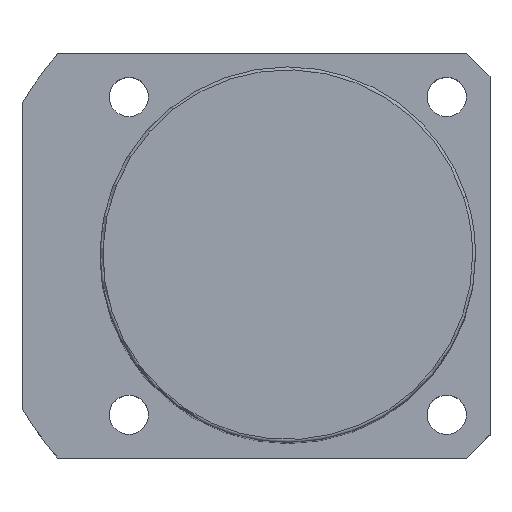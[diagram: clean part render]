
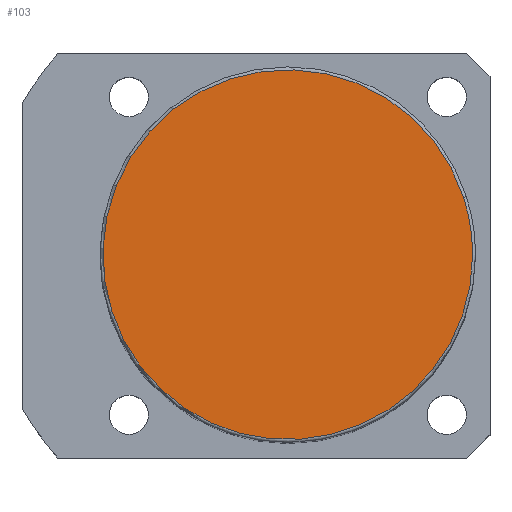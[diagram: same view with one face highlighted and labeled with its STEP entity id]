
A CAD part, top view. The second image highlights one B-rep face of the part: STEP entity #103.
In plain terms, the highlighted planar face has unit normal (0, 0, 1).
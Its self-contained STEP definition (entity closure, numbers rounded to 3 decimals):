
#16=CARTESIAN_POINT('',(-30.434,-9.889,131.0));
#17=VERTEX_POINT('',#16);
#54=CARTESIAN_POINT('',(30.434,9.889,131.0));
#55=VERTEX_POINT('',#54);
#63=CARTESIAN_POINT('',(32.0,0.0,131.0));
#64=VERTEX_POINT('',#63);
#65=CARTESIAN_POINT('',(0.0,0.0,131.0));
#66=DIRECTION('',(0.0,0.0,1.0));
#67=DIRECTION('',(1.0,0.0,0.0));
#68=AXIS2_PLACEMENT_3D('',#65,#66,#67);
#69=CIRCLE('',#68,32.0);
#70=EDGE_CURVE('no 898',#64,#55,#69,.T.);
#72=CARTESIAN_POINT('',(0.0,0.0,131.0));
#73=DIRECTION('',(0.0,0.0,1.0));
#74=DIRECTION('',(1.0,0.0,0.0));
#75=AXIS2_PLACEMENT_3D('',#72,#73,#74);
#76=CIRCLE('',#75,32.0);
#77=EDGE_CURVE('no 902',#17,#64,#76,.T.);
#87=ORIENTED_EDGE('',*,*,#70,.T.);
#88=CARTESIAN_POINT('',(0.0,0.0,131.0));
#89=DIRECTION('',(0.0,0.0,1.0));
#90=DIRECTION('',(1.0,0.0,0.0));
#91=AXIS2_PLACEMENT_3D('',#88,#89,#90);
#92=CIRCLE('',#91,32.0);
#93=EDGE_CURVE('no 911',#55,#17,#92,.T.);
#94=ORIENTED_EDGE('',*,*,#93,.T.);
#95=ORIENTED_EDGE('',*,*,#77,.T.);
#96=EDGE_LOOP('',(#87,#94,#95));
#97=FACE_OUTER_BOUND('',#96,.T.);
#98=CARTESIAN_POINT('',(0.0,0.0,131.0));
#99=DIRECTION('',(0.0,0.0,1.0));
#100=DIRECTION('',(1.0,0.0,0.0));
#101=AXIS2_PLACEMENT_3D('',#98,#99,#100);
#102=PLANE('',#101);
#103=ADVANCED_FACE('no 904',(#97),#102,.T.);
